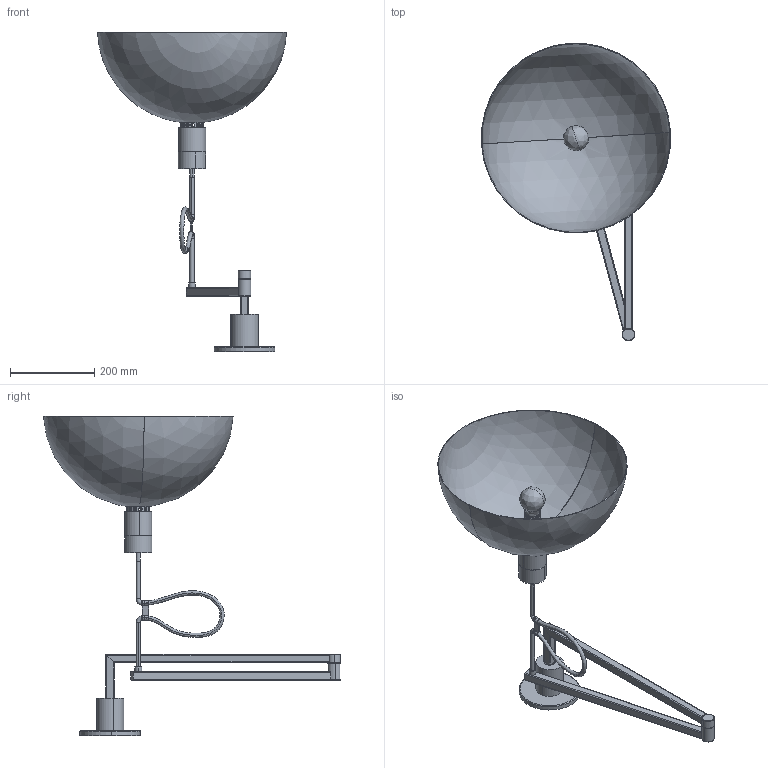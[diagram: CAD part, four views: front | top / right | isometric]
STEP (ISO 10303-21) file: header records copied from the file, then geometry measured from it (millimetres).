
FILE_DESCRIPTION (( 'STEP AP214' ), '1' );
FILE_NAME ('3D_AS41Z.STEP', '2018-02-22T14:06:08', ( 'Utente' ), ( '' ), 'SwSTEP 2.0', 'SolidWorks 2016', '' );
FILE_SCHEMA (( 'AUTOMOTIVE_DESIGN' ));
Length unit declared in the file: millimetre
Products named in the file (5): 010ALB701400-1^3D_AS41Z; _U3-1^3D_AS41Z; Group2^3D_AS41Z; Group1^3D_AS41Z; 3D_AS41Z
Assembly tree (4 placements, depth 2):
  3D_AS41Z
    Group1^3D_AS41Z
    Group2^3D_AS41Z
    _U3-1^3D_AS41Z
    010ALB701400-1^3D_AS41Z
Bounding box: 448.73 x 704.05 x 757.14 mm (x, y, z)
Volume: 1721152.8 mm3; surface area: 857650.2 mm2
Topology: 9 solids, 9 shells, 214 faces, 535 edges, 332 vertices
Faces by surface type: cylinder 110, plane 47, cone 25, torus 18, bspline 10, sphere 4
Entity records: 12787 total; most frequent: CARTESIAN_POINT 7053, DIRECTION 1083, ORIENTED_EDGE 1066, EDGE_CURVE 533, AXIS2_PLACEMENT_3D 454, VERTEX_POINT 332, EDGE_LOOP 257, CIRCLE 243
